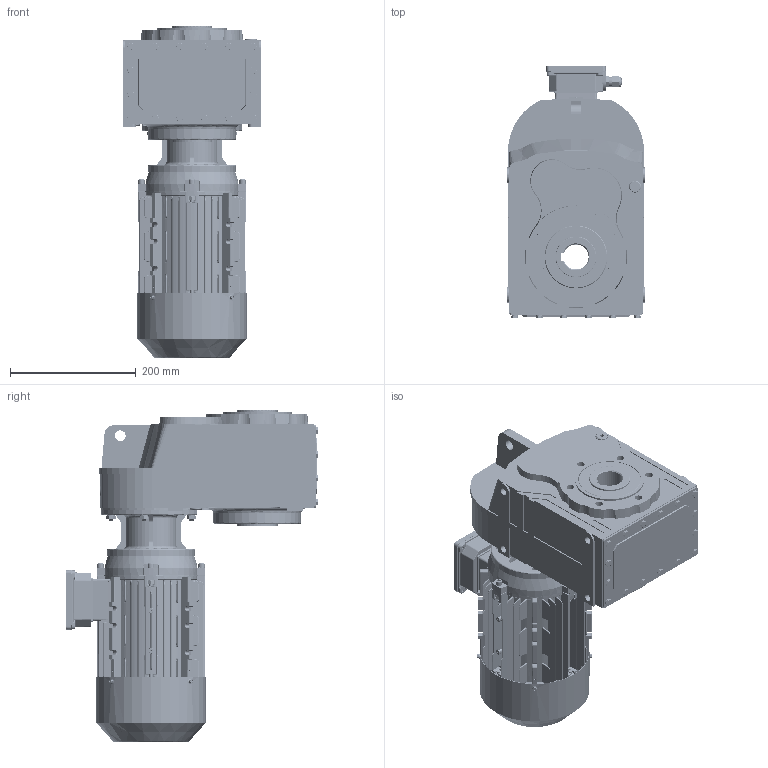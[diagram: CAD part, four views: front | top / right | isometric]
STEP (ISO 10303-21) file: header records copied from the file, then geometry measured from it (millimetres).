
FILE_DESCRIPTION (( 'STEP AP203' ), '1' );
FILE_NAME ('DV_373_0_MX3-90L.STEP', '2018-11-15T11:07:14', ( '' ), ( '' ), 'SwSTEP 2.0', 'SolidWorks 2012', '' );
FILE_SCHEMA (( 'CONFIG_CONTROL_DESIGN' ));
Products named in the file (26): DV_373_0_MX3-90L; hexagon nuts grade c gb_GB_FASTENER_NUT_SNC1 M6-N_1; IE3-90L flange B14; MX3-90L_B14; IE3 90L  oil seal_1; IE3 90L cable glandsM16_1; cross recessed pan head screws gb_GB_CROSS_SCREWS_TYPE1 M4X5-5  H type-N_1; cross recessed pan head screws gb_GB_CROSS_SCREWS_TYPE1 M5X10-10  H type-N_1; plain washers-n series-grade a gb_GB_FASTENER_WASHER_PWNA 4_1; hexagon socket head cap screws gb_GB_FASTENER_SCREWS_HSHCS M6X30-N_1; IE3 90L grouding mark_1; IE3 90L flange_1; circlips for shaft--type a large gb_GB_CONNECTING_PIECE_RING_RRA 19_1; cross recessed pan head tapping screws gb_GB_CROSS_SCREWS_TYPE128 ST4.2X9.5 H C-N_1; hexagon flange head tapping screws gb_GB_SQUARE_AND_HEXAGON_TYPE137 ST4.2X9.5 F-N_1; spring lock washers--normal type gb_GB_FASTENER_WASHER_SW 6_1; plain parallel keys_GB_CONNECTING_PIECE_KEYS_CSK 8X40_1; IE3 90L terminal box_1; IE3 90L fan cover_1; IE3 90L terminal box cover_1; ML57A_Varsayìlan_1; IE3 90L casing_1; IE3 90L rotor_1; IE3 90L fan_1; D373_Varsayìlan_1; 2390B14_Varsayìlan
Assembly tree (55 placements, depth 3):
  DV_373_0_MX3-90L
    D373_Varsayìlan_1
    2390B14_Varsayìlan
    ML57A_Varsayìlan_1
    MX3-90L_B14
      IE3 90L casing_1
      IE3 90L rotor_1
      IE3 90L fan_1
      IE3 90L fan cover_1
      plain parallel keys_GB_CONNECTING_PIECE_KEYS_CSK 8X40_1
      IE3 90L terminal box_1
      IE3 90L terminal box cover_1
      spring lock washers--normal type gb_GB_FASTENER_WASHER_SW 6_1  x8
      cross recessed pan head tapping screws gb_GB_CROSS_SCREWS_TYPE128 ST4.2X9.5 H C-N_1  x4
      hexagon flange head tapping screws gb_GB_SQUARE_AND_HEXAGON_TYPE137 ST4.2X9.5 F-N_1  x4
      hexagon socket head cap screws gb_GB_FASTENER_SCREWS_HSHCS M6X30-N_1  x8
      IE3 90L flange_1
      circlips for shaft--type a large gb_GB_CONNECTING_PIECE_RING_RRA 19_1
      IE3 90L grouding mark_1
      plain washers-n series-grade a gb_GB_FASTENER_WASHER_PWNA 4_1
      cross recessed pan head screws gb_GB_CROSS_SCREWS_TYPE1 M4X5-5  H type-N_1
      cross recessed pan head screws gb_GB_CROSS_SCREWS_TYPE1 M5X10-10  H type-N_1  x4
      IE3 90L cable glandsM16_1  x2
      IE3 90L  oil seal_1
      hexagon nuts grade c gb_GB_FASTENER_NUT_SNC1 M6-N_1  x7
      IE3-90L flange B14
Bounding box: 219 x 401.5 x 528.9 mm (x, y, z)
Volume: 11484510.6 mm3; surface area: 1355177.7 mm2
Topology: 54 solids, 54 shells, 5510 faces, 13919 edges, 8570 vertices
Faces by surface type: plane 2080, cylinder 1701, bspline 1054, cone 521, sphere 100, torus 54
Entity records: 188613 total; most frequent: CARTESIAN_POINT 76199, ORIENTED_EDGE 24532, DIRECTION 20184, EDGE_CURVE 12266, VERTEX_POINT 7613, AXIS2_PLACEMENT_3D 7397, VECTOR 5390, LINE 5390
